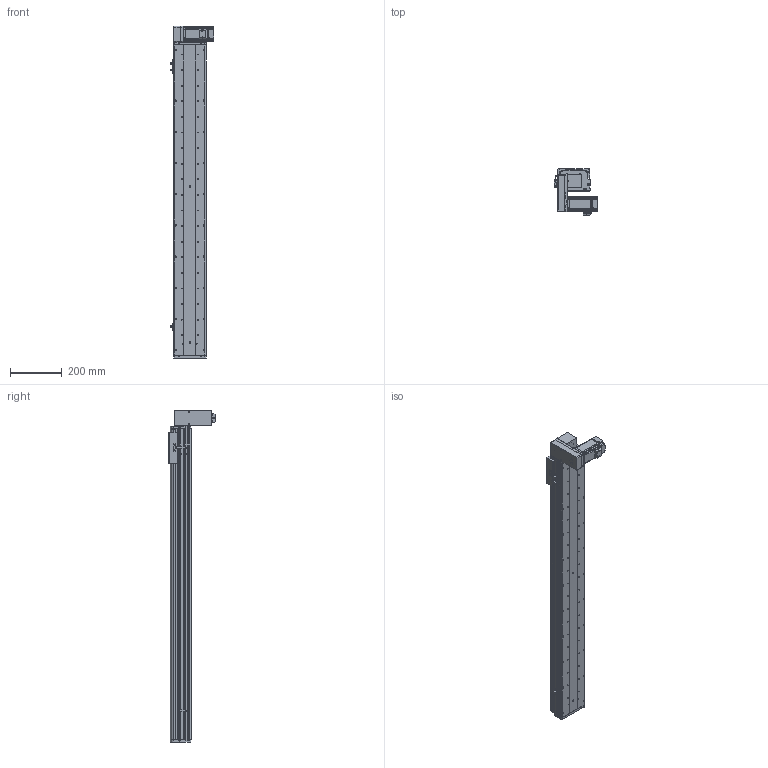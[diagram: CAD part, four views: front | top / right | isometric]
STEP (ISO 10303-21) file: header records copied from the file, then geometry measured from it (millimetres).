
FILE_DESCRIPTION (( 'STEP AP214' ), '1' );
FILE_NAME ('KSD125B-S1000-MRD-CM.STEP', '2017-10-21T06:24:08', ( '微软用户' ), ( '微软中国' ), 'SwSTEP 2.0', 'SolidWorks 2014', '' );
FILE_SCHEMA (( 'AUTOMOTIVE_DESIGN' ));
Length unit declared in the file: millimetre
Products named in the file (17): U倰嫖萇EEㄜSX672; KSD125模组同步带-防撞垫1; 100宽马达安装板同步带右; 前端板-125宽模组同步带; 125模组同步带-尾端板1; KSD125模组同步带-滑动座1; KSD125B-S1000-MRD-CM; 悵誘欶奻狟殏; HTPA30S3M150_A_H6_a佪裝蚚; HTPA30S3M150_A_H6_a萇儂蚚; 100宽马达安装板连板上下折丝杆同步带; KSD125模组1000行程同步带-防尘盖; 125模组1000行程同步带-底板; MHMD042G1CA_2_03; KSD125模组同步带-防撞垫2; 覜茼え68遵圉猾敕; U倰嫖萇假蚾璃
Assembly tree (20 placements, depth 2):
  KSD125B-S1000-MRD-CM
    KSD125模组同步带-滑动座1
    125模组同步带-尾端板1
    前端板-125宽模组同步带
    100宽马达安装板同步带右
    KSD125模组同步带-防撞垫1
    U倰嫖萇EEㄜSX672  x3
    U倰嫖萇假蚾璃  x3
    覜茼え68遵圉猾敕
    KSD125模组同步带-防撞垫2
    MHMD042G1CA_2_03
    125模组1000行程同步带-底板
    KSD125模组1000行程同步带-防尘盖
    100宽马达安装板连板上下折丝杆同步带
    HTPA30S3M150_A_H6_a萇儂蚚
    HTPA30S3M150_A_H6_a佪裝蚚
    悵誘欶奻狟殏
Bounding box: 168.7 x 179.5 x 1277 mm (x, y, z)
Volume: 3926602.1 mm3; surface area: 1320149.5 mm2
Topology: 19 solids, 22 shells, 2311 faces, 6697 edges, 4426 vertices
Faces by surface type: cylinder 1456, plane 728, cone 105, bspline 22
Entity records: 82343 total; most frequent: CARTESIAN_POINT 16239, DIRECTION 12798, ORIENTED_EDGE 11914, EDGE_CURVE 6035, AXIS2_PLACEMENT_3D 4953, VERTEX_POINT 4018, VECTOR 2892, LINE 2892
